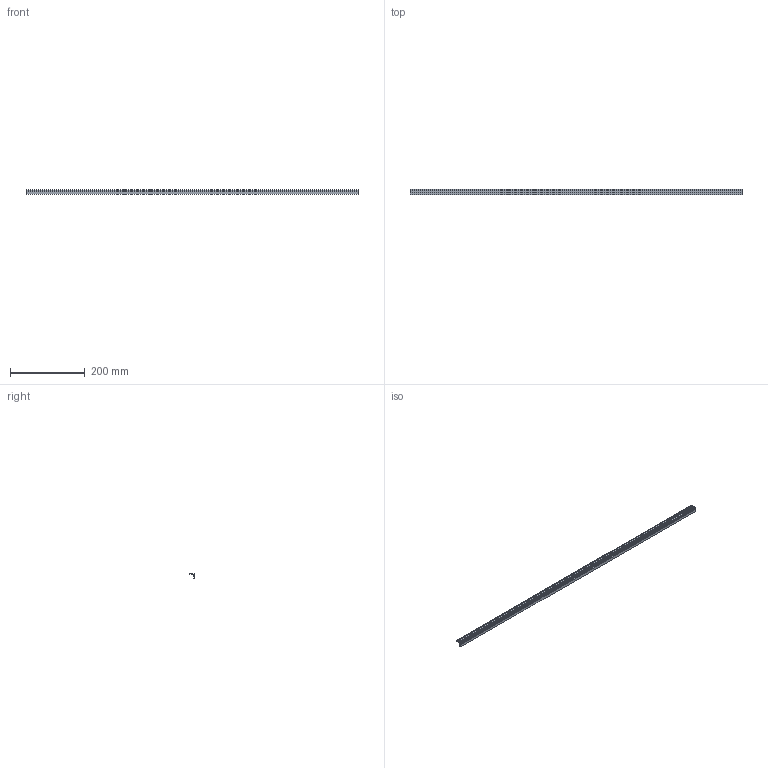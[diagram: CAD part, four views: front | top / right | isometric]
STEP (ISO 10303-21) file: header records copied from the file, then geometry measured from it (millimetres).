
FILE_DESCRIPTION( ( 'STEP AP214' ), '1' );
FILE_NAME( 'C:/Users/KOSH/Desktop/Same as task/Sliding folding/9278683.stp', '2021-07-01T13:41:46', ( '' ), ( '' ), ' ', 'PARTsolutions', ' ' );
FILE_SCHEMA( ( 'AUTOMOTIVE_DESIGN { 1 0 10303 214 1 1 1 1 }' ) );
Length unit declared in the file: millimetre
Products named in the file (1): _9278683
Bounding box: 888 x 16 x 13.1 mm (x, y, z)
Volume: 42800.5 mm3; surface area: 59995 mm2
Topology: 1 solids, 1 shells, 38 faces, 108 edges, 72 vertices
Faces by surface type: plane 34, cylinder 4
Entity records: 1540 total; most frequent: CARTESIAN_POINT 219, ORIENTED_EDGE 216, DIRECTION 194, EDGE_CURVE 108, LINE 100, VECTOR 100, VERTEX_POINT 72, AXIS2_PLACEMENT_3D 47
